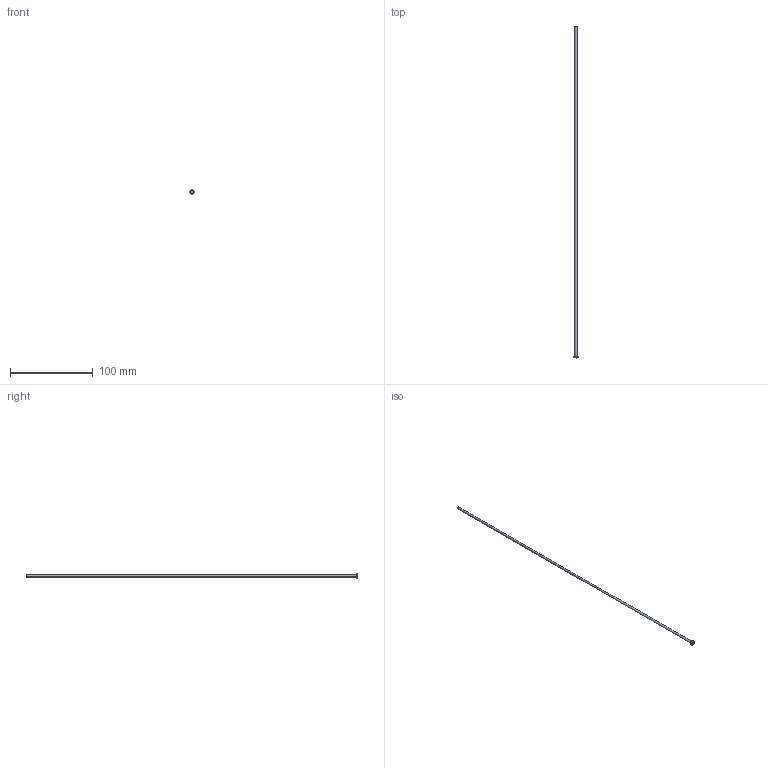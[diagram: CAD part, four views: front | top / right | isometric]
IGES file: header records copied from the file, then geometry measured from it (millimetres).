
Start section: SolidWorks IGES file using analytic representation for surfaces
Global section: file name: C:\Users\User\Downloads\Matripeça 31-08 tar\PB - PINO EXTRATOR TIPO _B_ (CATÁLOGO)\PB02,5\PB02,5400.IGS; native system: SolidWorks 2024; preprocessor: SolidWorks 2024; author: User; date: 260901.141246; units: millimetre
Bounding box: 5 x 400 x 5 mm (x, y, z)
Surface area: 3199.6 mm2 (no closed solid volume)
Topology: 0 solids, 0 shells, 406 faces, 3060 edges, 3060 vertices
Faces by surface type: bspline 392, revolution 14
